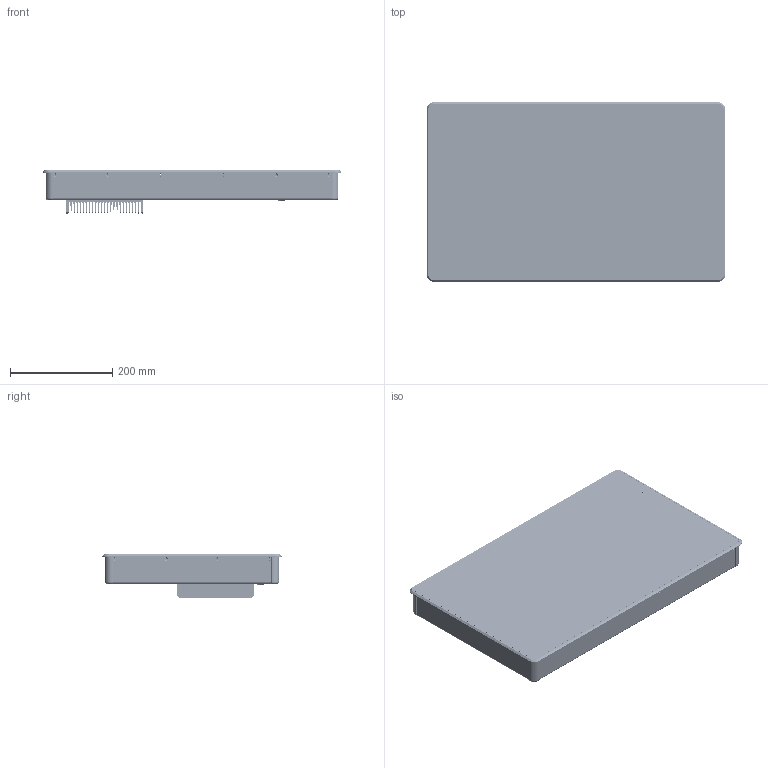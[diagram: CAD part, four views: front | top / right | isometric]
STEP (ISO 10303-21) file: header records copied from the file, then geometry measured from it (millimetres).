
FILE_DESCRIPTION(/* description */ (''),/* implementation_level */ '2;1');
FILE_NAME(/* name */ 'D:\Modelle vereinfacht\notion.D\notion.D3\778-41955-00\778-41955-00_IPT_000.stp',/* time_stamp */ '2025-05-26T11:56:30+02:00',/* author */ ('Blessing'),/* organization */ (''),/* preprocessor_version */ 'ST-DEVELOPER v18.1',/* originating_system */ 'Autodesk Inventor 2021',/* authorisation */ '');
FILE_SCHEMA (('AUTOMOTIVE_DESIGN { 1 0 10303 214 3 1 1 }'));
Products named in the file (1): 778-41955-00
Bounding box: 584.4 x 352 x 84.2 mm (x, y, z)
Volume: 10579123.8 mm3; surface area: 1145243.1 mm2
Topology: 1 solids, 98 shells, 12582 faces, 36226 edges, 23685 vertices
Faces by surface type: plane 8264, cylinder 2747, bspline 1082, cone 394, torus 75, sphere 20
Full cylindrical faces by diameter (mm): 0.4 x8, 0.5 x16, 0.6 x3, 0.65 x8, 0.8 x1, 0.85 x1, 0.95 x8, 1.1 x2, 1.2 x4, 2.156 x2, 2.2 x2, 2.459 x19, 2.794 x2, 2.8 x4, 3 x27, 3.01 x1, 3.15 x2, 3.2 x2, 3.242 x14, 3.5 x36, 4.22 x10, 4.3 x10, 4.7 x2, 4.767 x6, 4.8 x2, 4.917 x4, 4.96 x1, 5 x4, 5.2 x7, 5.38 x7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
Entity records: 446684 total; most frequent: CARTESIAN_POINT 109472, ORIENTED_EDGE 70927, DIRECTION 62122, EDGE_CURVE 36195, LINE 26774, VECTOR 26774, VERTEX_POINT 23685, AXIS2_PLACEMENT_3D 17674
